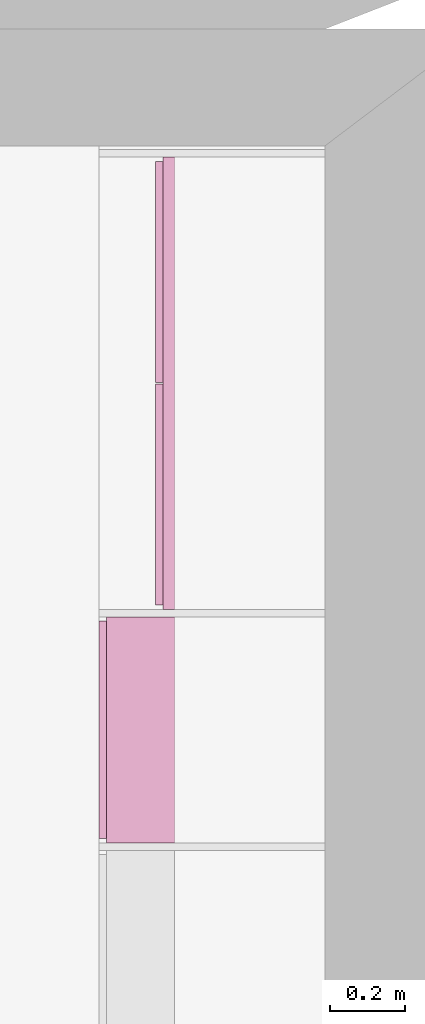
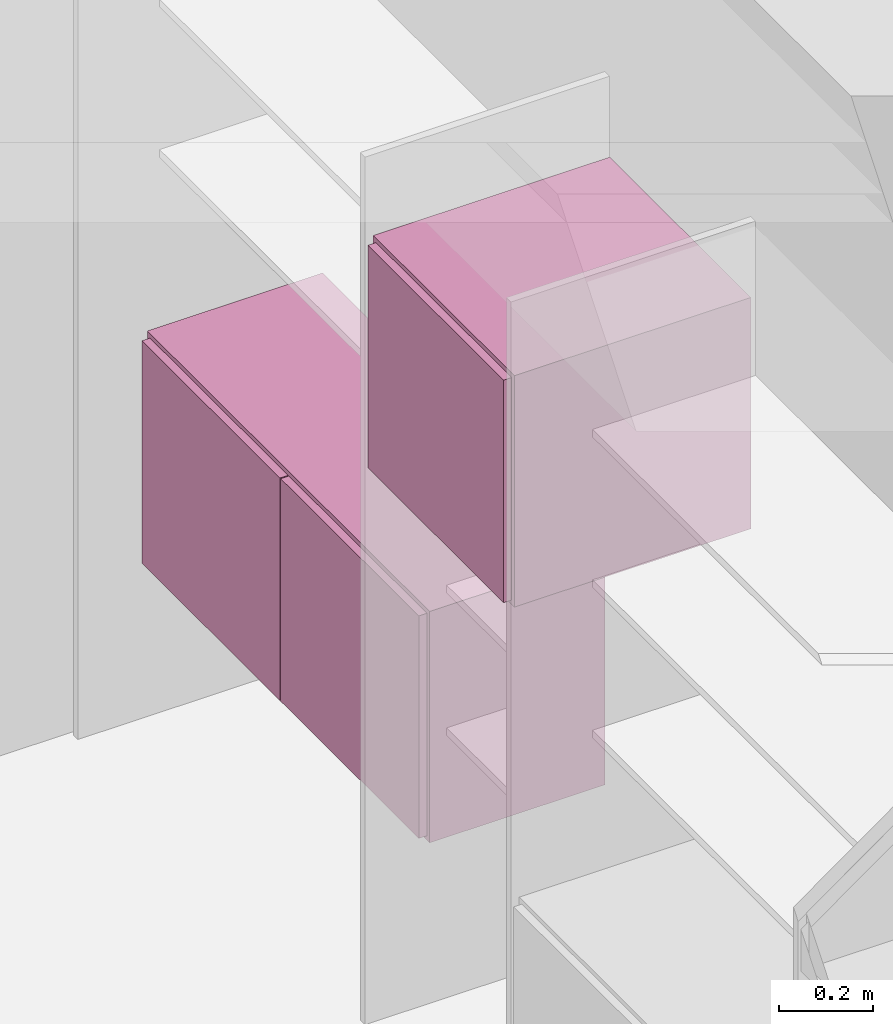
# One storey, part 54 of 64: 2 furnishings.
"""IFC2X3 building model written with IfcOpenShell, lengths in metres."""

from ifc_helpers import new_model, entity, si_unit, converted_unit, derived_unit, direction, frame, origin, place, context, subcontext, project, spatial, faceted_brep, source, transform, mapped, material, type_object, type_shapes, element, save


model = new_model("IFC2X3")

# Units and contexts
model_context = context("Model", 3, precision=1e-05, world=origin(), true_north=direction((6.123031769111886e-17, 1.0)))
body_context = subcontext(model_context, "Body", "Model", "MODEL_VIEW")
ifc_project = project(units=[si_unit("LENGTHUNIT", "METRE"), si_unit("AREAUNIT", "SQUARE_METRE"), si_unit("VOLUMEUNIT", "CUBIC_METRE"), converted_unit("PLANEANGLEUNIT", "DEGREE", entity("IfcRatioMeasure", 0.017453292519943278), si_unit("PLANEANGLEUNIT", "RADIAN"), dimensions=[0, 0, 0, 0, 0, 0, 0]), si_unit("MASSUNIT", "GRAM", prefix="KILO"), derived_unit("MASSDENSITYUNIT", [(si_unit("MASSUNIT", "GRAM", prefix="KILO"), 1), (si_unit("LENGTHUNIT", "METRE"), -3)]), derived_unit("MOMENTOFINERTIAUNIT", [(si_unit("LENGTHUNIT", "METRE"), 4)]), si_unit("TIMEUNIT", "SECOND"), si_unit("FREQUENCYUNIT", "HERTZ"), si_unit("THERMODYNAMICTEMPERATUREUNIT", "DEGREE_CELSIUS"), derived_unit("THERMALTRANSMITTANCEUNIT", [(si_unit("MASSUNIT", "GRAM", prefix="KILO"), 1), (si_unit("THERMODYNAMICTEMPERATUREUNIT", "KELVIN"), -1), (si_unit("TIMEUNIT", "SECOND"), -3)]), derived_unit("THERMALCONDUCTANCEUNIT", [(si_unit("MASSUNIT", "GRAM", prefix="KILO"), 1), (si_unit("LENGTHUNIT", "METRE"), 1), (si_unit("THERMODYNAMICTEMPERATUREUNIT", "KELVIN"), -1), (si_unit("TIMEUNIT", "SECOND"), -3)]), derived_unit("VOLUMETRICFLOWRATEUNIT", [(si_unit("LENGTHUNIT", "METRE"), 3), (si_unit("TIMEUNIT", "SECOND"), -1)]), derived_unit("MASSFLOWRATEUNIT", [(si_unit("MASSUNIT", "GRAM", prefix="KILO"), 1), (si_unit("TIMEUNIT", "SECOND"), -1)]), derived_unit("ROTATIONALFREQUENCYUNIT", [(si_unit("TIMEUNIT", "SECOND"), -1)]), si_unit("ELECTRICCURRENTUNIT", "AMPERE"), si_unit("ELECTRICVOLTAGEUNIT", "VOLT"), si_unit("POWERUNIT", "WATT"), si_unit("FORCEUNIT", "NEWTON", prefix="KILO"), si_unit("ILLUMINANCEUNIT", "LUX"), si_unit("LUMINOUSFLUXUNIT", "LUMEN"), si_unit("LUMINOUSINTENSITYUNIT", "CANDELA"), derived_unit("USERDEFINED", [(si_unit("MASSUNIT", "GRAM", prefix="KILO"), -1), (si_unit("LENGTHUNIT", "METRE"), -2), (si_unit("TIMEUNIT", "SECOND"), 3), (si_unit("LUMINOUSFLUXUNIT", "LUMEN"), 1)]), derived_unit("USERDEFINED", [(si_unit("MASSUNIT", "GRAM", prefix="KILO"), 1), (si_unit("LENGTHUNIT", "METRE"), 3), (si_unit("TIMEUNIT", "SECOND"), -3), (si_unit("ELECTRICCURRENTUNIT", "AMPERE"), -2)]), derived_unit("USERDEFINED", [(si_unit("LENGTHUNIT", "METRE"), 2), (si_unit("TIMEUNIT", "SECOND"), -2)]), derived_unit("SOUNDPOWERUNIT", [(si_unit("MASSUNIT", "GRAM", prefix="KILO"), 1), (si_unit("LENGTHUNIT", "METRE"), 2), (si_unit("TIMEUNIT", "SECOND"), -3)]), derived_unit("SOUNDPRESSUREUNIT", [(si_unit("MASSUNIT", "GRAM", prefix="KILO"), 1), (si_unit("LENGTHUNIT", "METRE"), -1), (si_unit("TIMEUNIT", "SECOND"), -2)]), derived_unit("LINEARVELOCITYUNIT", [(si_unit("LENGTHUNIT", "METRE"), 1), (si_unit("TIMEUNIT", "SECOND"), -1)]), si_unit("PRESSUREUNIT", "PASCAL"), derived_unit("USERDEFINED", [(si_unit("LENGTHUNIT", "METRE"), -2), (si_unit("MASSUNIT", "GRAM", prefix="KILO"), 1), (si_unit("TIMEUNIT", "SECOND"), -2)]), derived_unit("LINEARFORCEUNIT", [(si_unit("MASSUNIT", "GRAM", prefix="KILO"), 1), (si_unit("LENGTHUNIT", "METRE"), 1), (si_unit("TIMEUNIT", "SECOND"), -2), (si_unit("LENGTHUNIT", "METRE"), -1)]), derived_unit("PLANARFORCEUNIT", [(si_unit("MASSUNIT", "GRAM", prefix="KILO"), 1), (si_unit("LENGTHUNIT", "METRE"), 1), (si_unit("TIMEUNIT", "SECOND"), -2), (si_unit("LENGTHUNIT", "METRE"), -2)]), derived_unit("SPECIFICHEATCAPACITYUNIT", [(si_unit("LENGTHUNIT", "METRE"), 2), (si_unit("TIMEUNIT", "SECOND"), -2), (si_unit("THERMODYNAMICTEMPERATUREUNIT", "KELVIN"), -1)]), derived_unit("VAPORPERMEABILITYUNIT", [(si_unit("TIMEUNIT", "SECOND"), 1), (si_unit("LENGTHUNIT", "METRE"), -1)]), derived_unit("DYNAMICVISCOSITYUNIT", [(si_unit("MASSUNIT", "GRAM", prefix="KILO"), 1), (si_unit("LENGTHUNIT", "METRE"), -1), (si_unit("TIMEUNIT", "SECOND"), -1)]), derived_unit("THERMALEXPANSIONCOEFFICIENTUNIT", [(si_unit("THERMODYNAMICTEMPERATUREUNIT", "KELVIN"), -1)])], contexts=[model_context])

# Site, building, storey
site_placement = place(None, origin())
site = spatial("IfcSite", under=ifc_project, at=site_placement, Name="Default", CompositionType="ELEMENT")
building_placement = place(site_placement, origin())
building = spatial("IfcBuilding", under=site, at=building_placement, CompositionType="ELEMENT")
storey_placement = place(building_placement, origin())
storey = spatial("IfcBuildingStorey", under=building, at=storey_placement, Name="REZ-DE-CHAUSSÉE", CompositionType="ELEMENT", Elevation=0.0)

# Furnishings
ifc_material = material(Name="Peinture - Blanc titanium")
furnishing_element_type_1 = type_object("IfcFurnishingElementType", Name="Symb-0007", material=ifc_material)
shared_shape_1 = source(origin(), body_context, "Body", "Brep", [
    faceted_brep([(0.6000000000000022, 0.019999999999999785, 0.020000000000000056), (0.6000000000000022, 0.019999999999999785, 0.58), (0.5800000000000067, 0.019999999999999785, 0.58), (0.5800000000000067, 0.019999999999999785, 0.020000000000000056), (0.6000000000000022, 0.5800000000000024, 0.020000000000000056), (0.6000000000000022, 0.5800000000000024, 0.58), (0.5800000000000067, 0.5800000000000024, 0.58), (0.5800000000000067, 0.5800000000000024, 0.020000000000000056), (0.02000000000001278, 0.5999999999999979, 0.0), (0.6000000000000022, 0.5999999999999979, 0.0), (0.6000000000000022, 0.5800000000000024, 0.0), (0.02000000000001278, 0.5800000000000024, 0.0), (0.02000000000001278, 0.5999999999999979, 0.6000000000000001), (0.6000000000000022, 0.5999999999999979, 0.6000000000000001), (0.6000000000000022, 0.5800000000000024, 0.6000000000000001), (0.02000000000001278, 0.5800000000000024, 0.6000000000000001), (0.02000000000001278, 0.019999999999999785, 0.0), (0.6000000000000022, 0.019999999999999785, 0.0), (0.6000000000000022, 0.0, 0.0), (0.02000000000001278, 0.0, 0.0), (0.02000000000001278, 0.019999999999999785, 0.6000000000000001), (0.6000000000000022, 0.019999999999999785, 0.6000000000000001), (0.6000000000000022, 0.0, 0.6000000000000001), (0.02000000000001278, 0.0, 0.6000000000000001), (0.02000000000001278, 0.5800000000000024, 0.020000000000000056), (0.02000000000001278, 0.019999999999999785, 0.020000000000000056), (0.02000000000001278, 0.5800000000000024, 0.58), (0.02000000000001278, 0.019999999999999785, 0.58), (0.5800000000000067, 0.019999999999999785, 0.0), (0.5800000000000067, 0.5800000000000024, 0.0), (0.02000000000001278, 0.011500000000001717, 0.011500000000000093), (0.0, 0.011500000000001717, 0.011500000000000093), (0.0, 0.5884999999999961, 0.011500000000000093), (0.02000000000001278, 0.5884999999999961, 0.011500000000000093), (0.02000000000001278, 0.011500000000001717, 0.5885000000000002), (0.0, 0.011500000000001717, 0.5885000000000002), (0.0, 0.5884999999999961, 0.5885000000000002), (0.02000000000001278, 0.5884999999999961, 0.5885000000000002)], [[[0, 1, 2, 3]], [[4, 5, 1, 0]], [[1, 5, 6, 2]], [[3, 2, 6, 7]], [[0, 3, 7, 4]], [[7, 6, 5, 4]], [[8, 9, 10, 11]], [[8, 12, 13, 9]], [[9, 13, 14, 10]], [[10, 14, 15, 11]], [[11, 15, 12, 8]], [[15, 14, 13, 12]], [[16, 17, 18, 19]], [[16, 20, 21, 17]], [[17, 21, 22, 18]], [[18, 22, 23, 19]], [[19, 23, 20, 16]], [[23, 22, 21, 20]], [[11, 10, 17, 16]], [[11, 24, 4, 10]], [[10, 4, 0, 17]], [[17, 0, 25, 16]], [[16, 25, 24, 11]], [[25, 0, 4, 24]], [[26, 5, 1, 27]], [[26, 15, 14, 5]], [[5, 14, 21, 1]], [[1, 21, 20, 27]], [[27, 20, 15, 26]], [[20, 21, 14, 15]], [[17, 28, 29, 10]], [[18, 19, 16, 17]], [[10, 11, 8, 9]], [[30, 31, 32, 33]], [[34, 35, 31, 30]], [[31, 35, 36, 32]], [[33, 32, 36, 37]], [[30, 33, 37, 34]], [[37, 36, 35, 34]]]),
])
type_shapes(furnishing_element_type_1, [shared_shape_1])
furnishing_1_placement = place(storey_placement, frame((127.39075227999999, 20.337209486, 1.44)))
element("IfcFurnishingElement", 1, at=furnishing_1_placement, inside=storey, type_object=furnishing_element_type_1, material=ifc_material, Name="Symb-0007 154421:Symb-0007 154421", ObjectType="Symb-0007 154421:Symb-0007 154421", context=body_context, shape_type="MappedRepresentation", body=[
    mapped(shared_shape_1, transform((0.0, 0.0, 0.0), scale=1.0)),
])
furnishing_element_type_2 = type_object("IfcFurnishingElementType", Name="Symb-0008", material=ifc_material)
shared_shape_2 = source(origin(), body_context, "Body", "Brep", [
    faceted_brep([(0.4500000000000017, 0.019999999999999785, 0.01999999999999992), (0.4500000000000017, 0.019999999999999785, 0.5799999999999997), (0.4300000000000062, 0.019999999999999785, 0.5799999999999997), (0.4300000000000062, 0.019999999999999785, 0.01999999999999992), (0.4500000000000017, 1.1800000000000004, 0.01999999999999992), (0.4500000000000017, 1.1800000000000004, 0.5799999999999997), (0.4300000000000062, 1.1800000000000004, 0.5799999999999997), (0.4300000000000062, 1.1800000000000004, 0.01999999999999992), (0.019999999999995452, 1.2000000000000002, 0.0), (0.4500000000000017, 1.2000000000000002, 0.0), (0.4500000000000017, 1.1800000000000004, 0.0), (0.019999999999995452, 1.1800000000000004, 0.0), (0.019999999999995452, 1.2000000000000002, 0.5999999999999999), (0.4500000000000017, 1.2000000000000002, 0.5999999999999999), (0.4500000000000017, 1.1800000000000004, 0.5999999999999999), (0.019999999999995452, 1.1800000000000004, 0.5999999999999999), (0.019999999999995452, 0.019999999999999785, 0.0), (0.4500000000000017, 0.019999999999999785, 0.0), (0.4500000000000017, 0.0, 0.0), (0.019999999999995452, 0.0, 0.0), (0.019999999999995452, 0.019999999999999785, 0.5999999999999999), (0.4500000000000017, 0.019999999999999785, 0.5999999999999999), (0.4500000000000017, 0.0, 0.5999999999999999), (0.019999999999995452, 0.0, 0.5999999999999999), (0.019999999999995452, 1.1800000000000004, 0.01999999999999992), (0.019999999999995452, 0.019999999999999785, 0.01999999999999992), (0.019999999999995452, 1.1800000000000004, 0.5799999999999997), (0.019999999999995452, 0.019999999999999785, 0.5799999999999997), (0.4300000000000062, 0.019999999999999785, 0.0), (0.4300000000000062, 1.1800000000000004, 0.0), (0.019999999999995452, 0.011500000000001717, 0.01149999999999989), (0.0, 0.011500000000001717, 0.01149999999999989), (0.0, 0.5984999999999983, 0.01149999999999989), (0.019999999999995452, 0.5984999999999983, 0.01149999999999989), (0.019999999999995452, 0.011500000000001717, 0.5884999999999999), (0.0, 0.011500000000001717, 0.5884999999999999), (0.0, 0.5984999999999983, 0.5884999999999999), (0.019999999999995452, 0.5984999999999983, 0.5884999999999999), (0.019999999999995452, 1.1884999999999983, 0.01149999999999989), (0.019999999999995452, 0.6014999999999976, 0.01149999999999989), (0.0, 0.6014999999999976, 0.01149999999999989), (0.0, 1.1884999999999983, 0.01149999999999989), (0.019999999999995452, 1.1884999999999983, 0.5884999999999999), (0.019999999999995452, 0.6014999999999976, 0.5884999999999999), (0.0, 0.6014999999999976, 0.5884999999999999), (0.0, 1.1884999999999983, 0.5884999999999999)], [[[0, 1, 2, 3]], [[4, 5, 1, 0]], [[1, 5, 6, 2]], [[3, 2, 6, 7]], [[0, 3, 7, 4]], [[7, 6, 5, 4]], [[8, 9, 10, 11]], [[8, 12, 13, 9]], [[9, 13, 14, 10]], [[10, 14, 15, 11]], [[11, 15, 12, 8]], [[15, 14, 13, 12]], [[16, 17, 18, 19]], [[16, 20, 21, 17]], [[17, 21, 22, 18]], [[18, 22, 23, 19]], [[19, 23, 20, 16]], [[23, 22, 21, 20]], [[11, 10, 17, 16]], [[11, 24, 4, 10]], [[10, 4, 0, 17]], [[17, 0, 25, 16]], [[16, 25, 24, 11]], [[25, 0, 4, 24]], [[26, 5, 1, 27]], [[26, 15, 14, 5]], [[5, 14, 21, 1]], [[1, 21, 20, 27]], [[27, 20, 15, 26]], [[20, 21, 14, 15]], [[17, 28, 29, 10]], [[18, 19, 16, 17]], [[10, 11, 8, 9]], [[30, 31, 32, 33]], [[34, 35, 31, 30]], [[31, 35, 36, 32]], [[33, 32, 36, 37]], [[30, 33, 37, 34]], [[37, 36, 35, 34]], [[38, 39, 40, 41]], [[38, 42, 43, 39]], [[39, 43, 44, 40]], [[41, 40, 44, 45]], [[42, 38, 41, 45]], [[43, 42, 45, 44]]]),
])
type_shapes(furnishing_element_type_2, [shared_shape_2])
furnishing_2_placement = place(storey_placement, frame((127.54075227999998, 20.957209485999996, 0.4)))
element("IfcFurnishingElement", 2, at=furnishing_2_placement, inside=storey, type_object=furnishing_element_type_2, material=ifc_material, Name="Symb-0008 154464:Symb-0008 154464", ObjectType="Symb-0008 154464:Symb-0008 154464", context=body_context, shape_type="MappedRepresentation", body=[
    mapped(shared_shape_2, transform((0.0, 0.0, 0.0), scale=1.0)),
])

save(model, "model.ifc")
